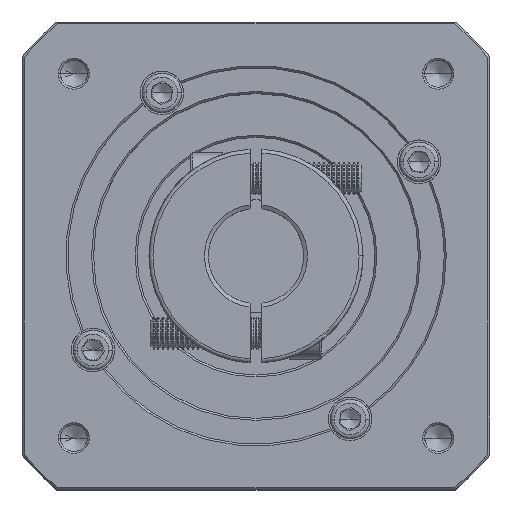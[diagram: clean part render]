
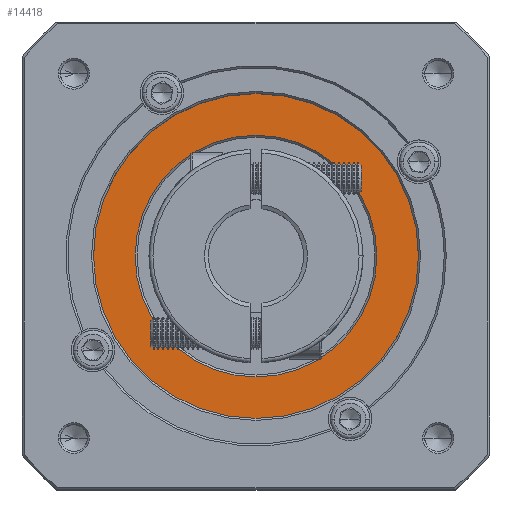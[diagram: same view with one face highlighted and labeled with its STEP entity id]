
A CAD part, top view. The second image highlights one B-rep face of the part: STEP entity #14418.
In plain terms, the highlighted planar face has unit normal (0, 0, 1).
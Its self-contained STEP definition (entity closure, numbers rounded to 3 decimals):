
#3596 = CARTESIAN_POINT ( 'NONE',  ( 69.096, 90.323, 36.003 ) ) ;
#4136 = ORIENTED_EDGE ( 'NONE', *, *, #78349, .T. ) ;
#7457 = CARTESIAN_POINT ( 'NONE',  ( 69.096, 90.323, 36.003 ) ) ;
#13082 = DIRECTION ( 'NONE',  ( 0., -1., 0. ) ) ;
#13574 = EDGE_CURVE ( 'NONE', #113760, #67390, #39387, .T. ) ;
#14418 = ADVANCED_FACE ( 'NONE', ( #89245, #117220 ), #92189, .T. ) ;
#14579 = EDGE_CURVE ( 'NONE', #93488, #65247, #56744, .T. ) ;
#14709 = DIRECTION ( 'NONE',  ( 0., 0., 1. ) ) ;
#16992 = DIRECTION ( 'NONE',  ( 1., 0., 0. ) ) ;
#28561 = DIRECTION ( 'NONE',  ( 0., 0., 1. ) ) ;
#29080 = AXIS2_PLACEMENT_3D ( 'NONE', #3596, #69697, #13082 ) ;
#39387 = CIRCLE ( 'NONE', #74304, 30.5 ) ;
#54851 = CARTESIAN_POINT ( 'NONE',  ( 69.096, 90.323, 36.003 ) ) ;
#55362 = CIRCLE ( 'NONE', #102706, 41. ) ;
#56744 = CIRCLE ( 'NONE', #68875, 41. ) ;
#58765 = CIRCLE ( 'NONE', #29080, 30.5 ) ;
#64279 = DIRECTION ( 'NONE',  ( 0., -1., 0. ) ) ;
#65247 = VERTEX_POINT ( 'NONE', #92382 ) ;
#66773 = CARTESIAN_POINT ( 'NONE',  ( 69.096, 59.823, 36.003 ) ) ;
#67390 = VERTEX_POINT ( 'NONE', #66773 ) ;
#68875 = AXIS2_PLACEMENT_3D ( 'NONE', #85081, #28561, #94587 ) ;
#69697 = DIRECTION ( 'NONE',  ( 0., 0., -1. ) ) ;
#71307 = CARTESIAN_POINT ( 'NONE',  ( 69.096, 90.323, 36.003 ) ) ;
#73605 = DIRECTION ( 'NONE',  ( 0., 0., 1. ) ) ;
#74304 = AXIS2_PLACEMENT_3D ( 'NONE', #54851, #120676, #64279 ) ;
#78349 = EDGE_CURVE ( 'NONE', #67390, #113760, #58765, .T. ) ;
#80055 = EDGE_LOOP ( 'NONE', ( #96142, #115849 ) ) ;
#80785 = DIRECTION ( 'NONE',  ( 1., 0., 0. ) ) ;
#85081 = CARTESIAN_POINT ( 'NONE',  ( 69.096, 90.323, 36.003 ) ) ;
#89245 = FACE_OUTER_BOUND ( 'NONE', #80055, .T. ) ;
#92189 = PLANE ( 'NONE',  #102800 ) ;
#92382 = CARTESIAN_POINT ( 'NONE',  ( 110.096, 90.323, 36.003 ) ) ;
#93488 = VERTEX_POINT ( 'NONE', #108328 ) ;
#94587 = DIRECTION ( 'NONE',  ( 1., 0., 0. ) ) ;
#95333 = EDGE_LOOP ( 'NONE', ( #4136, #96501 ) ) ;
#96142 = ORIENTED_EDGE ( 'NONE', *, *, #118614, .T. ) ;
#96501 = ORIENTED_EDGE ( 'NONE', *, *, #13574, .T. ) ;
#102706 = AXIS2_PLACEMENT_3D ( 'NONE', #71307, #14709, #80785 ) ;
#102800 = AXIS2_PLACEMENT_3D ( 'NONE', #7457, #73605, #16992 ) ;
#108328 = CARTESIAN_POINT ( 'NONE',  ( 28.096, 90.323, 36.003 ) ) ;
#113760 = VERTEX_POINT ( 'NONE', #116450 ) ;
#115849 = ORIENTED_EDGE ( 'NONE', *, *, #14579, .T. ) ;
#116450 = CARTESIAN_POINT ( 'NONE',  ( 69.096, 120.823, 36.003 ) ) ;
#117220 = FACE_BOUND ( 'NONE', #95333, .T. ) ;
#118614 = EDGE_CURVE ( 'NONE', #65247, #93488, #55362, .T. ) ;
#120676 = DIRECTION ( 'NONE',  ( 0., 0., -1. ) ) ;
